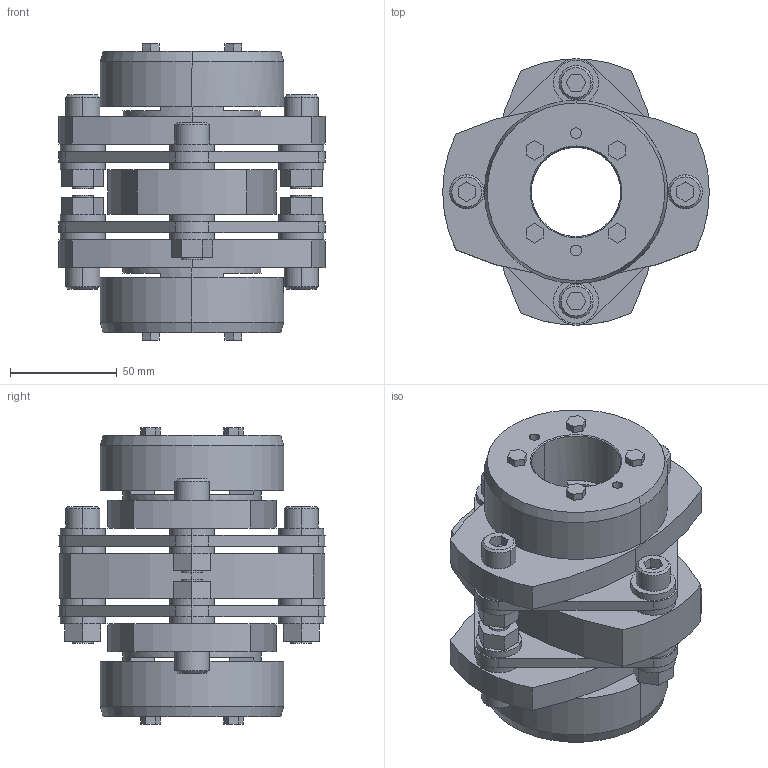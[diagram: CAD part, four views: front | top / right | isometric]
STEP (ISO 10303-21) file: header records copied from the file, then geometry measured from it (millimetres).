
FILE_DESCRIPTION((''),'2;1');
FILE_NAME('LCD-125T7-42×42.stp','2011-09-07T10:24:53',(''),(''),'AutoCAD STEP 2000i','AutoCAD 2000i',', , ');
FILE_SCHEMA(('CONFIG_CONTROL_DESIGN'));
Length unit declared in the file: millimetre
Products named in the file (9): LCD-125T7-40×40; 忣兜1; LC125T7-T040-1; LC125T7-T040; LC125T7-T038; LC125T7-T035; LC125T7-T032-1; LC125T7-T032; LCD125-ITA
Assembly tree (8 placements, depth 2):
  LCD-125T7-40×40
    忣兜1
    LC125T7-T040-1
    LC125T7-T040
    LC125T7-T038
    LC125T7-T035
    LC125T7-T032-1
    LC125T7-T032
    LCD125-ITA
Bounding box: 125 x 124.91 x 139 mm (x, y, z)
Volume: 668587.9 mm3; surface area: 140015.2 mm2
Topology: 1 solids, 1 shells, 334 faces, 818 edges, 538 vertices
Faces by surface type: plane 190, cylinder 120, cone 24
Entity records: 10127 total; most frequent: DIRECTION 1786, CARTESIAN_POINT 1699, ORIENTED_EDGE 1636, EDGE_CURVE 818, AXIS2_PLACEMENT_3D 625, VERTEX_POINT 538, VECTOR 536, LINE 536
